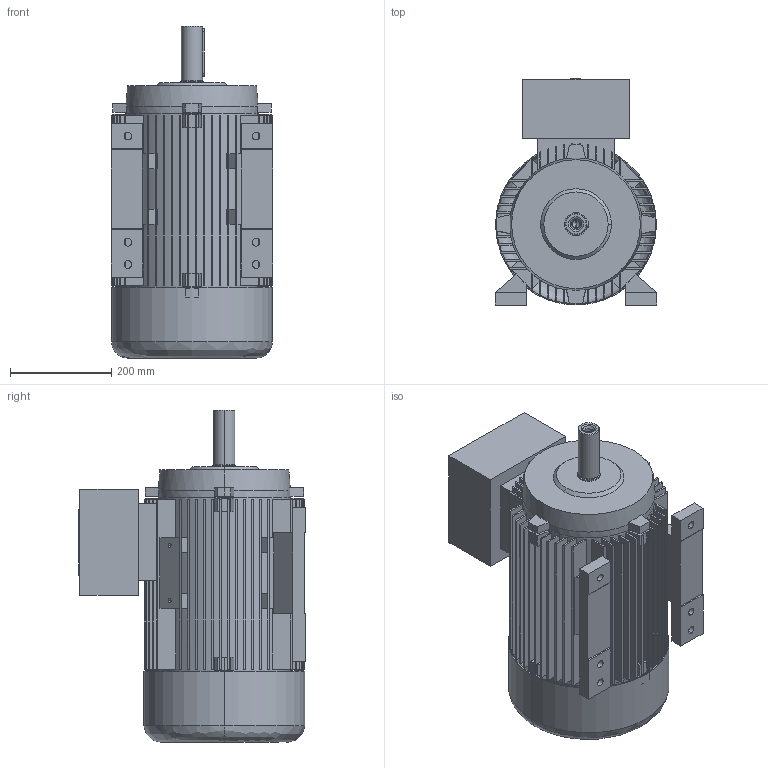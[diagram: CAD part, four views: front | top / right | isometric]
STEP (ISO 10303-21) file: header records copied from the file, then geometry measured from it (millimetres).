
FILE_DESCRIPTION (( 'STEP AP203' ), '1' );
FILE_NAME ('20.18369_A 7AZ 160 M&L B3 STANDK.STEP', '2018-04-06T07:32:31', ( '' ), ( '' ), 'SwSTEP 2.0', 'SolidWorks 2017', '' );
FILE_SCHEMA (( 'CONFIG_CONTROL_DESIGN' ));
Length unit declared in the file: millimetre
Products named in the file (1): 20.18369_A 7AZ 160 M&L B3 STANDK
Bounding box: 320 x 448 x 657 mm (x, y, z)
Volume: 16283565.3 mm3; surface area: 2713612.3 mm2
Topology: 15 solids, 15 shells, 748 faces, 2020 edges, 1327 vertices
Faces by surface type: plane 528, cylinder 169, cone 38, bspline 13
Entity records: 24232 total; most frequent: CARTESIAN_POINT 4963, DIRECTION 4040, ORIENTED_EDGE 4004, EDGE_CURVE 2002, VECTOR 1352, LINE 1352, AXIS2_PLACEMENT_3D 1344, VERTEX_POINT 1327
